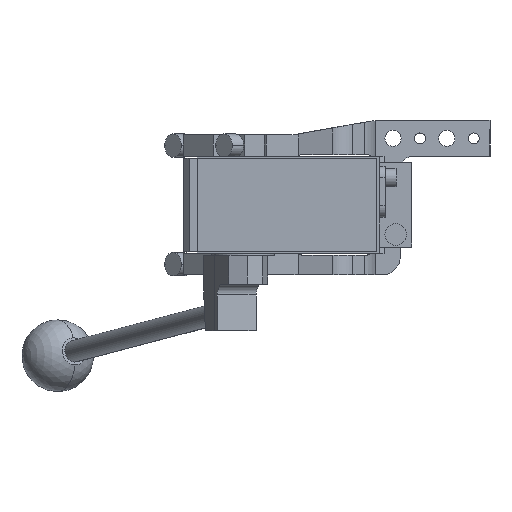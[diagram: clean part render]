
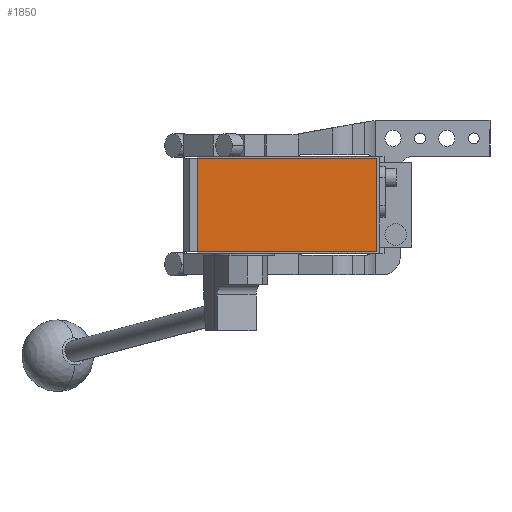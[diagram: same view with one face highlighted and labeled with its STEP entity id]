
A CAD part, front view. The second image highlights one B-rep face of the part: STEP entity #1850.
In plain terms, the highlighted planar face has unit normal (0, -1, 0).
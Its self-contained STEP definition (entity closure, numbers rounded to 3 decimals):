
#397 = EDGE_CURVE ( 'NONE', #8588, #2819, #7387, .T. ) ;
#907 = LINE ( 'NONE', #2132, #1213 ) ;
#1149 = EDGE_LOOP ( 'NONE', ( #15073, #2089, #9115, #1666 ) ) ;
#1213 = VECTOR ( 'NONE', #5729, 1000. ) ;
#1416 = CARTESIAN_POINT ( 'NONE',  ( -19., -286.5, 26. ) ) ;
#1666 = ORIENTED_EDGE ( 'NONE', *, *, #2342, .T. ) ;
#1850 = ADVANCED_FACE ( 'NONE', ( #11827 ), #3919, .T. ) ;
#1959 = CARTESIAN_POINT ( 'NONE',  ( 81., -286.5, 26. ) ) ;
#2089 = ORIENTED_EDGE ( 'NONE', *, *, #12894, .T. ) ;
#2132 = CARTESIAN_POINT ( 'NONE',  ( -19., -286.5, 26. ) ) ;
#2342 = EDGE_CURVE ( 'NONE', #2819, #10346, #907, .T. ) ;
#2462 = CARTESIAN_POINT ( 'NONE',  ( -19., -286.5, -26. ) ) ;
#2696 = DIRECTION ( 'NONE',  ( 0., 0., -1. ) ) ;
#2819 = VERTEX_POINT ( 'NONE', #1959 ) ;
#3919 = PLANE ( 'NONE',  #12317 ) ;
#4744 = CARTESIAN_POINT ( 'NONE',  ( -19., -286.5, 26. ) ) ;
#5246 = DIRECTION ( 'NONE',  ( 0., 0., 1. ) ) ;
#5729 = DIRECTION ( 'NONE',  ( -1., 0., 0. ) ) ;
#5981 = DIRECTION ( 'NONE',  ( 0., -1., 0. ) ) ;
#6281 = VECTOR ( 'NONE', #5246, 1000. ) ;
#6380 = VERTEX_POINT ( 'NONE', #2462 ) ;
#7131 = DIRECTION ( 'NONE',  ( 1., 0., 0. ) ) ;
#7387 = LINE ( 'NONE', #12157, #6281 ) ;
#8588 = VERTEX_POINT ( 'NONE', #10066 ) ;
#9115 = ORIENTED_EDGE ( 'NONE', *, *, #397, .T. ) ;
#9434 = CARTESIAN_POINT ( 'NONE',  ( 0., -286.5, 0. ) ) ;
#9777 = VECTOR ( 'NONE', #7131, 1000. ) ;
#10066 = CARTESIAN_POINT ( 'NONE',  ( 81., -286.5, -26. ) ) ;
#10346 = VERTEX_POINT ( 'NONE', #4744 ) ;
#10483 = VECTOR ( 'NONE', #14262, 1000. ) ;
#10661 = EDGE_CURVE ( 'NONE', #10346, #6380, #13266, .T. ) ;
#10682 = LINE ( 'NONE', #11754, #9777 ) ;
#11754 = CARTESIAN_POINT ( 'NONE',  ( -19., -286.5, -26. ) ) ;
#11827 = FACE_OUTER_BOUND ( 'NONE', #1149, .T. ) ;
#12157 = CARTESIAN_POINT ( 'NONE',  ( 81., -286.5, 26. ) ) ;
#12317 = AXIS2_PLACEMENT_3D ( 'NONE', #9434, #5981, #2696 ) ;
#12894 = EDGE_CURVE ( 'NONE', #6380, #8588, #10682, .T. ) ;
#13266 = LINE ( 'NONE', #1416, #10483 ) ;
#14262 = DIRECTION ( 'NONE',  ( 0., 0., -1. ) ) ;
#15073 = ORIENTED_EDGE ( 'NONE', *, *, #10661, .T. ) ;
